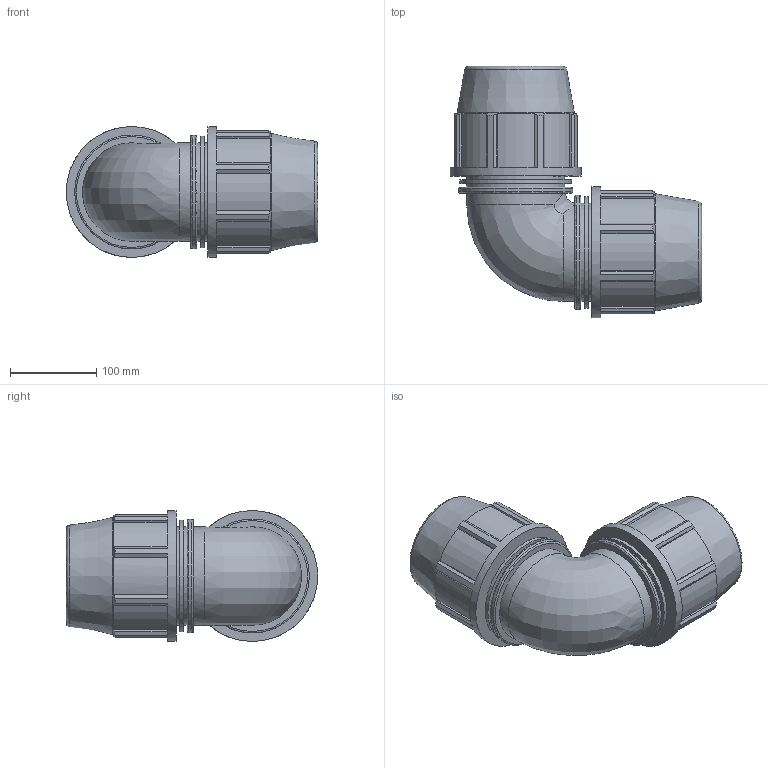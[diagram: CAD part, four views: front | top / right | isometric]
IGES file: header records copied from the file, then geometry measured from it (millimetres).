
Global section: file name: 870500090_180500090_840506090.ipt; native system: Autodesk Inventor 2015; preprocessor: unknown; author: KIM; date: 20180325.201212; units: millimetre
Bounding box: 292 x 292 x 152 mm (x, y, z)
Volume: 2901967.7 mm3; surface area: 344905.6 mm2
Topology: 1 solids, 1 shells, 143 faces, 393 edges, 266 vertices
Faces by surface type: plane 96, cylinder 28, revolution 14, cone 4, bspline 1
Full cylindrical faces by diameter (mm): 114 x4, 129.595 x2, 132.24 x2, 152 x2
